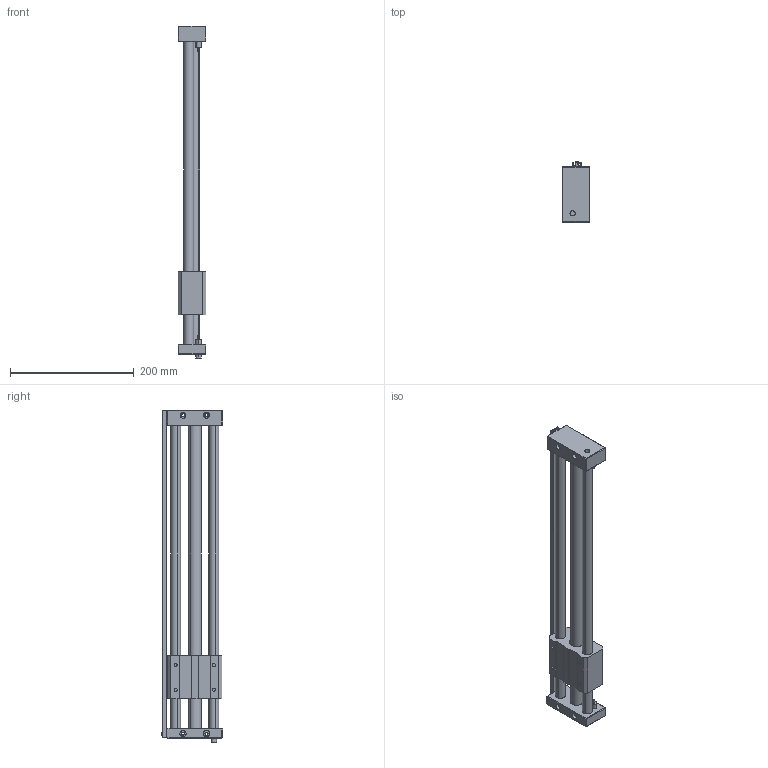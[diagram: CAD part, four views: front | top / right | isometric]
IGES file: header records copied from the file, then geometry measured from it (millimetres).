
Start section: SolidWorks IGES file using analytic representation for surfaces
Global section: file name: D:\Documents de SGA\Pieces 2D et 3D\GRU\iges\Assemblage6.IGS; native system: SolidWorks 2010; preprocessor: SolidWorks 2010; author: SGA; date: 111216.104657; units: millimetre
Bounding box: 45 x 98.93 x 537.56 mm (x, y, z)
Surface area: 193273.6 mm2 (no closed solid volume)
Topology: 0 solids, 0 shells, 211 faces, 3650 edges, 3650 vertices
Faces by surface type: bspline 111, revolution 100
